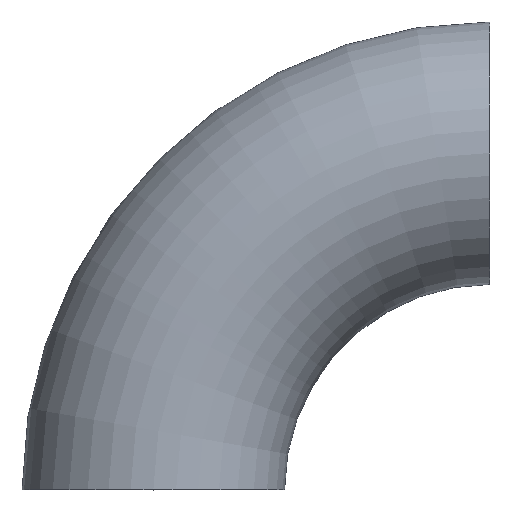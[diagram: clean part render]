
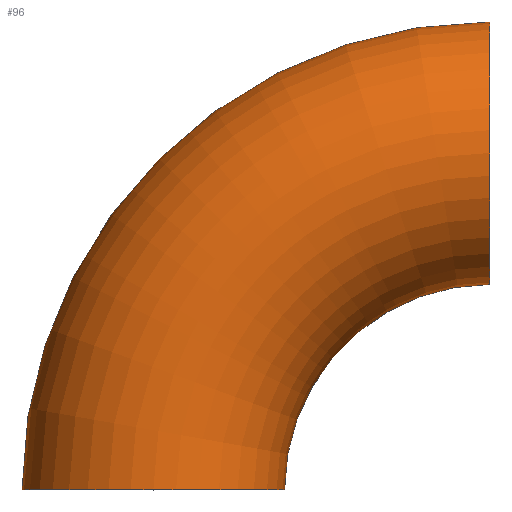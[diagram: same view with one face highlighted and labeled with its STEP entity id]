
A CAD part, top view. The second image highlights one B-rep face of the part: STEP entity #96.
In plain terms, the highlighted toroidal (fillet/blend) face has major radius 114 mm and minor radius 44.45 mm.
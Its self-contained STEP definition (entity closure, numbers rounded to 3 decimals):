
#9 = ORIENTED_EDGE ( 'NONE', *, *, #46, .F. ) ;
#12 = FACE_OUTER_BOUND ( 'NONE', #105, .T. ) ;
#13 = DIRECTION ( 'NONE',  ( 0., 0., 1. ) ) ;
#16 = CARTESIAN_POINT ( 'NONE',  ( 44.45, 0., 0. ) ) ;
#30 = DIRECTION ( 'NONE',  ( 0., 0., 1. ) ) ;
#32 = DIRECTION ( 'NONE',  ( 1., 0., 0. ) ) ;
#46 = EDGE_CURVE ( 'NONE', #144, #240, #221, .T. ) ;
#47 = CARTESIAN_POINT ( 'NONE',  ( 114., 0., 0. ) ) ;
#51 = CARTESIAN_POINT ( 'NONE',  ( 114., 69.55, 0. ) ) ;
#53 = DIRECTION ( 'NONE',  ( 1., 0., 0. ) ) ;
#54 = CARTESIAN_POINT ( 'NONE',  ( 114., 0., 0. ) ) ;
#56 = CARTESIAN_POINT ( 'NONE',  ( -44.45, 0., 0. ) ) ;
#62 = AXIS2_PLACEMENT_3D ( 'NONE', #208, #110, #83 ) ;
#65 = ORIENTED_EDGE ( 'NONE', *, *, #71, .F. ) ;
#67 = AXIS2_PLACEMENT_3D ( 'NONE', #171, #87, #182 ) ;
#71 = EDGE_CURVE ( 'NONE', #240, #145, #104, .T. ) ;
#82 = AXIS2_PLACEMENT_3D ( 'NONE', #131, #13, #32 ) ;
#83 = DIRECTION ( 'NONE',  ( 0., 0., 1. ) ) ;
#87 = DIRECTION ( 'NONE',  ( 0., 1., 0. ) ) ;
#90 = AXIS2_PLACEMENT_3D ( 'NONE', #54, #195, #53 ) ;
#96 = ADVANCED_FACE ( 'NONE', ( #12 ), #205, .T. ) ;
#101 = AXIS2_PLACEMENT_3D ( 'NONE', #47, #30, #209 ) ;
#104 = CIRCLE ( 'NONE', #101, 69.55 ) ;
#105 = EDGE_LOOP ( 'NONE', ( #9, #146, #196, #65 ) ) ;
#110 = DIRECTION ( 'NONE',  ( 1., 0., 0. ) ) ;
#113 = CIRCLE ( 'NONE', #90, 158.45 ) ;
#131 = CARTESIAN_POINT ( 'NONE',  ( 114., 0., 0. ) ) ;
#144 = VERTEX_POINT ( 'NONE', #249 ) ;
#145 = VERTEX_POINT ( 'NONE', #16 ) ;
#146 = ORIENTED_EDGE ( 'NONE', *, *, #153, .T. ) ;
#153 = EDGE_CURVE ( 'NONE', #144, #198, #113, .T. ) ;
#171 = CARTESIAN_POINT ( 'NONE',  ( 0., 0., 0. ) ) ;
#172 = CIRCLE ( 'NONE', #67, 44.45 ) ;
#182 = DIRECTION ( 'NONE',  ( 0., 0., 1. ) ) ;
#195 = DIRECTION ( 'NONE',  ( 0., 0., 1. ) ) ;
#196 = ORIENTED_EDGE ( 'NONE', *, *, #237, .T. ) ;
#198 = VERTEX_POINT ( 'NONE', #56 ) ;
#205 = TOROIDAL_SURFACE ( 'NONE', #82, 114., 44.45 ) ;
#208 = CARTESIAN_POINT ( 'NONE',  ( 114., 114., 0. ) ) ;
#209 = DIRECTION ( 'NONE',  ( 1., 0., 0. ) ) ;
#221 = CIRCLE ( 'NONE', #62, 44.45 ) ;
#237 = EDGE_CURVE ( 'NONE', #198, #145, #172, .T. ) ;
#240 = VERTEX_POINT ( 'NONE', #51 ) ;
#249 = CARTESIAN_POINT ( 'NONE',  ( 114., 158.45, 0. ) ) ;
